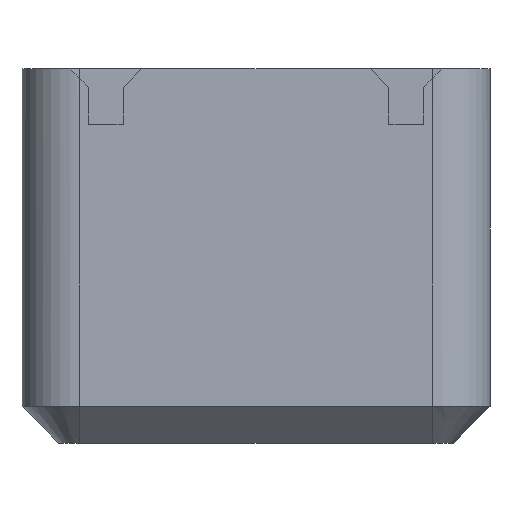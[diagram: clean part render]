
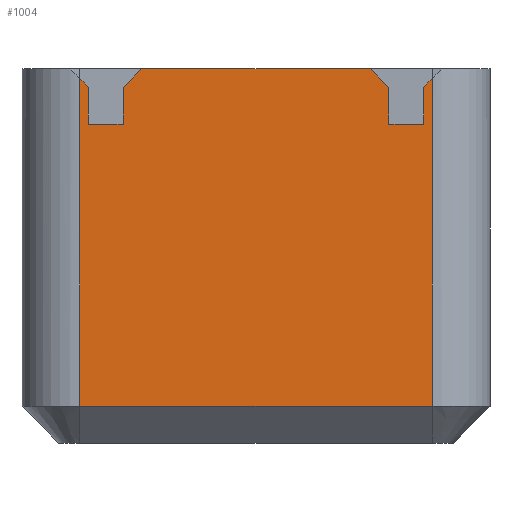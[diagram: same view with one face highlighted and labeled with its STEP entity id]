
A CAD part, front view. The second image highlights one B-rep face of the part: STEP entity #1004.
In plain terms, the highlighted planar face has unit normal (0, -1, 0).
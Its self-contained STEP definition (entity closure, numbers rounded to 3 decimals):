
#114=FACE_OUTER_BOUND('',#178,.T.);
#178=EDGE_LOOP('',(#769,#770,#771,#772,#773,#774,#775,#776,#777,#778,#779,
#780,#781,#782));
#234=LINE('',#1537,#334);
#240=LINE('',#1560,#340);
#249=LINE('',#1583,#349);
#274=LINE('',#1656,#374);
#276=LINE('',#1660,#376);
#277=LINE('',#1662,#377);
#278=LINE('',#1663,#378);
#279=LINE('',#1665,#379);
#280=LINE('',#1667,#380);
#281=LINE('',#1669,#381);
#282=LINE('',#1671,#382);
#283=LINE('',#1673,#383);
#284=LINE('',#1675,#384);
#285=LINE('',#1676,#385);
#334=VECTOR('',#1211,10.);
#340=VECTOR('',#1237,10.);
#349=VECTOR('',#1260,10.);
#374=VECTOR('',#1315,10.);
#376=VECTOR('',#1319,10.);
#377=VECTOR('',#1320,10.);
#378=VECTOR('',#1321,10.);
#379=VECTOR('',#1322,10.);
#380=VECTOR('',#1323,10.);
#381=VECTOR('',#1324,10.);
#382=VECTOR('',#1325,10.);
#383=VECTOR('',#1326,10.);
#384=VECTOR('',#1327,10.);
#385=VECTOR('',#1328,10.);
#431=VERTEX_POINT('',#1527);
#433=VERTEX_POINT('',#1533);
#441=VERTEX_POINT('',#1558);
#448=VERTEX_POINT('',#1581);
#480=VERTEX_POINT('',#1653);
#481=VERTEX_POINT('',#1655);
#482=VERTEX_POINT('',#1659);
#483=VERTEX_POINT('',#1661);
#484=VERTEX_POINT('',#1664);
#485=VERTEX_POINT('',#1666);
#486=VERTEX_POINT('',#1668);
#487=VERTEX_POINT('',#1670);
#488=VERTEX_POINT('',#1672);
#489=VERTEX_POINT('',#1674);
#526=EDGE_CURVE('',#431,#433,#234,.T.);
#538=EDGE_CURVE('',#441,#431,#240,.T.);
#549=EDGE_CURVE('',#448,#441,#249,.T.);
#585=EDGE_CURVE('',#480,#481,#274,.T.);
#587=EDGE_CURVE('',#448,#482,#276,.T.);
#588=EDGE_CURVE('',#482,#483,#277,.T.);
#589=EDGE_CURVE('',#483,#481,#278,.T.);
#590=EDGE_CURVE('',#484,#480,#279,.T.);
#591=EDGE_CURVE('',#485,#484,#280,.T.);
#592=EDGE_CURVE('',#485,#486,#281,.T.);
#593=EDGE_CURVE('',#486,#487,#282,.T.);
#594=EDGE_CURVE('',#487,#488,#283,.T.);
#595=EDGE_CURVE('',#489,#488,#284,.T.);
#596=EDGE_CURVE('',#433,#489,#285,.T.);
#769=ORIENTED_EDGE('',*,*,#526,.F.);
#770=ORIENTED_EDGE('',*,*,#538,.F.);
#771=ORIENTED_EDGE('',*,*,#549,.F.);
#772=ORIENTED_EDGE('',*,*,#587,.T.);
#773=ORIENTED_EDGE('',*,*,#588,.T.);
#774=ORIENTED_EDGE('',*,*,#589,.T.);
#775=ORIENTED_EDGE('',*,*,#585,.F.);
#776=ORIENTED_EDGE('',*,*,#590,.F.);
#777=ORIENTED_EDGE('',*,*,#591,.F.);
#778=ORIENTED_EDGE('',*,*,#592,.T.);
#779=ORIENTED_EDGE('',*,*,#593,.T.);
#780=ORIENTED_EDGE('',*,*,#594,.T.);
#781=ORIENTED_EDGE('',*,*,#595,.F.);
#782=ORIENTED_EDGE('',*,*,#596,.F.);
#966=PLANE('',#1110);
#1004=ADVANCED_FACE('',(#114),#966,.T.);
#1110=AXIS2_PLACEMENT_3D('',#1658,#1317,#1318);
#1211=DIRECTION('',(-1.,0.,0.));
#1237=DIRECTION('',(0.,0.,-1.));
#1260=DIRECTION('',(0.707,0.,0.707));
#1315=DIRECTION('',(0.707,0.,-0.707));
#1317=DIRECTION('center_axis',(0.,-1.,0.));
#1318=DIRECTION('ref_axis',(1.,0.,0.));
#1319=DIRECTION('',(0.,0.,-1.));
#1320=DIRECTION('',(-1.,0.,0.));
#1321=DIRECTION('',(0.,0.,1.));
#1322=DIRECTION('',(1.,0.,0.));
#1323=DIRECTION('',(0.707,0.,0.707));
#1324=DIRECTION('',(0.,0.,-1.));
#1325=DIRECTION('',(-1.,0.,0.));
#1326=DIRECTION('',(0.,0.,1.));
#1327=DIRECTION('',(0.707,0.,-0.707));
#1328=DIRECTION('',(0.,0.,1.));
#1527=CARTESIAN_POINT('',(15.25,-27.5,3.2));
#1533=CARTESIAN_POINT('',(-15.25,-27.5,3.2));
#1537=CARTESIAN_POINT('',(-10.125,-27.5,3.2));
#1558=CARTESIAN_POINT('',(15.25,-27.5,31.55));
#1560=CARTESIAN_POINT('',(15.25,-27.5,0.));
#1581=CARTESIAN_POINT('',(14.5,-27.5,30.8));
#1583=CARTESIAN_POINT('',(-1.488,-27.5,14.813));
#1653=CARTESIAN_POINT('',(9.9,-27.5,32.4));
#1655=CARTESIAN_POINT('',(11.5,-27.5,30.8));
#1656=CARTESIAN_POINT('',(10.863,-27.5,31.438));
#1658=CARTESIAN_POINT('Origin',(-20.25,-27.5,0.));
#1659=CARTESIAN_POINT('',(14.5,-27.5,27.6));
#1660=CARTESIAN_POINT('',(14.5,-27.5,13.8));
#1661=CARTESIAN_POINT('',(11.5,-27.5,27.6));
#1662=CARTESIAN_POINT('',(-4.375,-27.5,27.6));
#1663=CARTESIAN_POINT('',(11.5,-27.5,17.727));
#1664=CARTESIAN_POINT('',(-9.9,-27.5,32.4));
#1665=CARTESIAN_POINT('',(20.25,-27.5,32.4));
#1666=CARTESIAN_POINT('',(-11.5,-27.5,30.8));
#1667=CARTESIAN_POINT('',(-20.988,-27.5,21.313));
#1668=CARTESIAN_POINT('',(-11.5,-27.5,27.6));
#1669=CARTESIAN_POINT('',(-11.5,-27.5,17.727));
#1670=CARTESIAN_POINT('',(-14.5,-27.5,27.6));
#1671=CARTESIAN_POINT('',(-15.875,-27.5,27.6));
#1672=CARTESIAN_POINT('',(-14.5,-27.5,30.8));
#1673=CARTESIAN_POINT('',(-14.5,-27.5,13.8));
#1674=CARTESIAN_POINT('',(-15.25,-27.5,31.55));
#1675=CARTESIAN_POINT('',(-8.638,-27.5,24.938));
#1676=CARTESIAN_POINT('',(-15.25,-27.5,0.));
